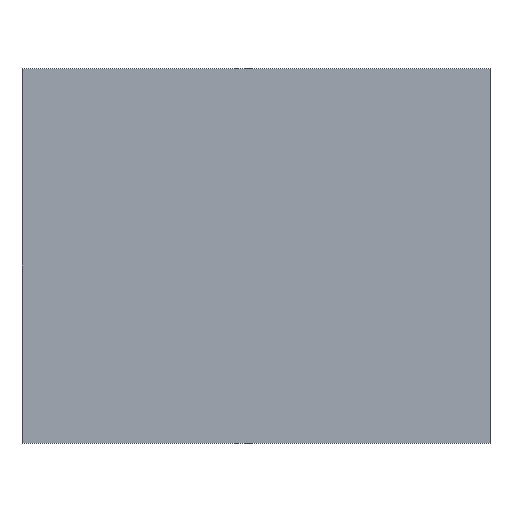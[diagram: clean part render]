
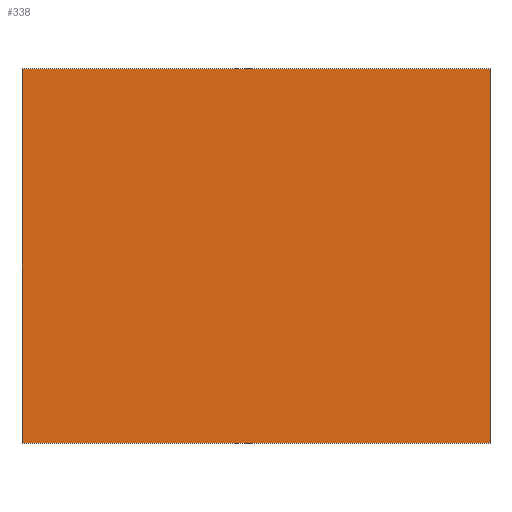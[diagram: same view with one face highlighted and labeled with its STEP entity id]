
A CAD part, top view. The second image highlights one B-rep face of the part: STEP entity #338.
In plain terms, the highlighted planar face has unit normal (0, 0, 1).
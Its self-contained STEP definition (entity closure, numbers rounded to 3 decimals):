
#24 = VERTEX_POINT('',#25);
#25 = CARTESIAN_POINT('',(39.5,10.,4.4));
#32 = PLANE('',#33);
#33 = AXIS2_PLACEMENT_3D('',#34,#35,#36);
#34 = CARTESIAN_POINT('',(39.5,10.,3.8));
#35 = DIRECTION('',(1.,0.,-0.));
#36 = DIRECTION('',(0.,0.,1.));
#44 = PLANE('',#45);
#45 = AXIS2_PLACEMENT_3D('',#46,#47,#48);
#46 = CARTESIAN_POINT('',(39.5,10.,3.8));
#47 = DIRECTION('',(-0.,1.,0.));
#48 = DIRECTION('',(0.,0.,1.));
#85 = VERTEX_POINT('',#86);
#86 = CARTESIAN_POINT('',(39.5,30.,4.4));
#100 = PLANE('',#101);
#101 = AXIS2_PLACEMENT_3D('',#102,#103,#104);
#102 = CARTESIAN_POINT('',(39.5,30.,3.8));
#103 = DIRECTION('',(-0.,1.,0.));
#104 = DIRECTION('',(0.,0.,1.));
#112 = EDGE_CURVE('',#24,#85,#113,.T.);
#113 = SURFACE_CURVE('',#114,(#118,#125),.PCURVE_S1.);
#114 = LINE('',#115,#116);
#115 = CARTESIAN_POINT('',(39.5,10.,4.4));
#116 = VECTOR('',#117,1.);
#117 = DIRECTION('',(-0.,1.,0.));
#118 = PCURVE('',#32,#119);
#119 = DEFINITIONAL_REPRESENTATION('',(#120),#124);
#120 = LINE('',#121,#122);
#121 = CARTESIAN_POINT('',(0.6,0.));
#122 = VECTOR('',#123,1.);
#123 = DIRECTION('',(0.,-1.));
#124 = ( GEOMETRIC_REPRESENTATION_CONTEXT(2) 
PARAMETRIC_REPRESENTATION_CONTEXT() REPRESENTATION_CONTEXT('2D SPACE',''
  ) );
#125 = PCURVE('',#126,#131);
#126 = PLANE('',#127);
#127 = AXIS2_PLACEMENT_3D('',#128,#129,#130);
#128 = CARTESIAN_POINT('',(39.5,10.,4.4));
#129 = DIRECTION('',(0.,0.,1.));
#130 = DIRECTION('',(1.,0.,-0.));
#131 = DEFINITIONAL_REPRESENTATION('',(#132),#136);
#132 = LINE('',#133,#134);
#133 = CARTESIAN_POINT('',(0.,0.));
#134 = VECTOR('',#135,1.);
#135 = DIRECTION('',(0.,1.));
#136 = ( GEOMETRIC_REPRESENTATION_CONTEXT(2) 
PARAMETRIC_REPRESENTATION_CONTEXT() REPRESENTATION_CONTEXT('2D SPACE',''
  ) );
#144 = VERTEX_POINT('',#145);
#145 = CARTESIAN_POINT('',(64.5,10.,4.4));
#152 = PLANE('',#153);
#153 = AXIS2_PLACEMENT_3D('',#154,#155,#156);
#154 = CARTESIAN_POINT('',(64.5,10.,3.8));
#155 = DIRECTION('',(1.,0.,-0.));
#156 = DIRECTION('',(0.,0.,1.));
#195 = VERTEX_POINT('',#196);
#196 = CARTESIAN_POINT('',(64.5,30.,4.4));
#217 = EDGE_CURVE('',#144,#195,#218,.T.);
#218 = SURFACE_CURVE('',#219,(#223,#230),.PCURVE_S1.);
#219 = LINE('',#220,#221);
#220 = CARTESIAN_POINT('',(64.5,10.,4.4));
#221 = VECTOR('',#222,1.);
#222 = DIRECTION('',(-0.,1.,0.));
#223 = PCURVE('',#152,#224);
#224 = DEFINITIONAL_REPRESENTATION('',(#225),#229);
#225 = LINE('',#226,#227);
#226 = CARTESIAN_POINT('',(0.6,0.));
#227 = VECTOR('',#228,1.);
#228 = DIRECTION('',(0.,-1.));
#229 = ( GEOMETRIC_REPRESENTATION_CONTEXT(2) 
PARAMETRIC_REPRESENTATION_CONTEXT() REPRESENTATION_CONTEXT('2D SPACE',''
  ) );
#230 = PCURVE('',#126,#231);
#231 = DEFINITIONAL_REPRESENTATION('',(#232),#236);
#232 = LINE('',#233,#234);
#233 = CARTESIAN_POINT('',(25.,0.));
#234 = VECTOR('',#235,1.);
#235 = DIRECTION('',(0.,1.));
#236 = ( GEOMETRIC_REPRESENTATION_CONTEXT(2) 
PARAMETRIC_REPRESENTATION_CONTEXT() REPRESENTATION_CONTEXT('2D SPACE',''
  ) );
#263 = EDGE_CURVE('',#24,#144,#264,.T.);
#264 = SURFACE_CURVE('',#265,(#269,#276),.PCURVE_S1.);
#265 = LINE('',#266,#267);
#266 = CARTESIAN_POINT('',(39.5,10.,4.4));
#267 = VECTOR('',#268,1.);
#268 = DIRECTION('',(1.,0.,-0.));
#269 = PCURVE('',#44,#270);
#270 = DEFINITIONAL_REPRESENTATION('',(#271),#275);
#271 = LINE('',#272,#273);
#272 = CARTESIAN_POINT('',(0.6,0.));
#273 = VECTOR('',#274,1.);
#274 = DIRECTION('',(0.,1.));
#275 = ( GEOMETRIC_REPRESENTATION_CONTEXT(2) 
PARAMETRIC_REPRESENTATION_CONTEXT() REPRESENTATION_CONTEXT('2D SPACE',''
  ) );
#276 = PCURVE('',#126,#277);
#277 = DEFINITIONAL_REPRESENTATION('',(#278),#282);
#278 = LINE('',#279,#280);
#279 = CARTESIAN_POINT('',(0.,0.));
#280 = VECTOR('',#281,1.);
#281 = DIRECTION('',(1.,0.));
#282 = ( GEOMETRIC_REPRESENTATION_CONTEXT(2) 
PARAMETRIC_REPRESENTATION_CONTEXT() REPRESENTATION_CONTEXT('2D SPACE',''
  ) );
#310 = EDGE_CURVE('',#85,#195,#311,.T.);
#311 = SURFACE_CURVE('',#312,(#316,#323),.PCURVE_S1.);
#312 = LINE('',#313,#314);
#313 = CARTESIAN_POINT('',(39.5,30.,4.4));
#314 = VECTOR('',#315,1.);
#315 = DIRECTION('',(1.,0.,-0.));
#316 = PCURVE('',#100,#317);
#317 = DEFINITIONAL_REPRESENTATION('',(#318),#322);
#318 = LINE('',#319,#320);
#319 = CARTESIAN_POINT('',(0.6,0.));
#320 = VECTOR('',#321,1.);
#321 = DIRECTION('',(0.,1.));
#322 = ( GEOMETRIC_REPRESENTATION_CONTEXT(2) 
PARAMETRIC_REPRESENTATION_CONTEXT() REPRESENTATION_CONTEXT('2D SPACE',''
  ) );
#323 = PCURVE('',#126,#324);
#324 = DEFINITIONAL_REPRESENTATION('',(#325),#329);
#325 = LINE('',#326,#327);
#326 = CARTESIAN_POINT('',(0.,20.));
#327 = VECTOR('',#328,1.);
#328 = DIRECTION('',(1.,0.));
#329 = ( GEOMETRIC_REPRESENTATION_CONTEXT(2) 
PARAMETRIC_REPRESENTATION_CONTEXT() REPRESENTATION_CONTEXT('2D SPACE',''
  ) );
#338 = ADVANCED_FACE('',(#339),#126,.T.);
#339 = FACE_BOUND('',#340,.T.);
#340 = EDGE_LOOP('',(#341,#342,#343,#344));
#341 = ORIENTED_EDGE('',*,*,#112,.F.);
#342 = ORIENTED_EDGE('',*,*,#263,.T.);
#343 = ORIENTED_EDGE('',*,*,#217,.T.);
#344 = ORIENTED_EDGE('',*,*,#310,.F.);
